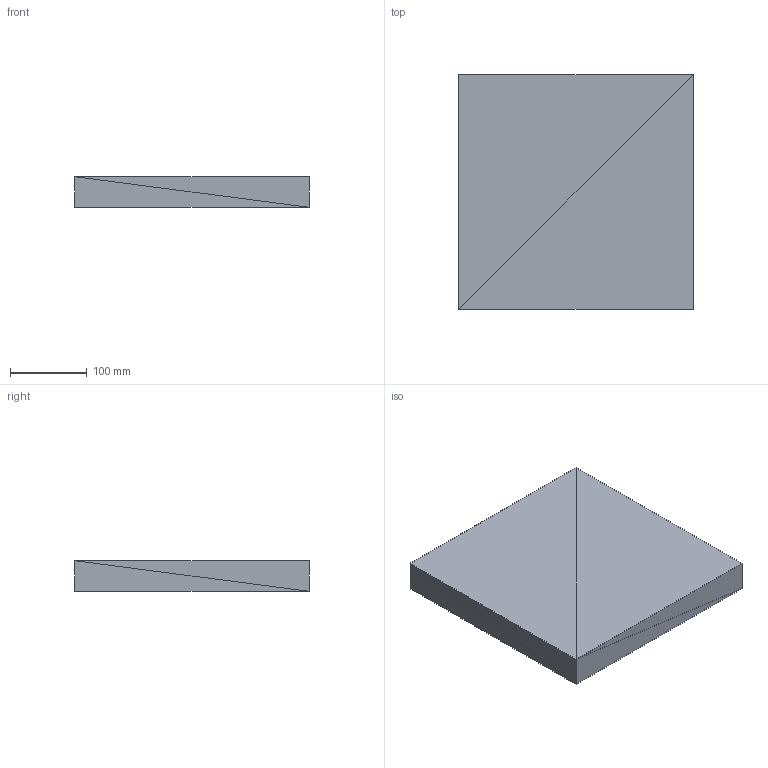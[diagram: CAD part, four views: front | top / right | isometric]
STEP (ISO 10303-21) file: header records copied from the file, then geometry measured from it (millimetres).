
FILE_DESCRIPTION(('ISINAC STEP AP214'),'2;1');
FILE_NAME('ISINAC_C.305_40mm_ADHESIVO','2026-05-03T10:49:19',('ISINAC'),('www.isinac.com'),'ISINAC BIM Generator 1.0','','');
FILE_SCHEMA(('AUTOMOTIVE_DESIGN'));
Length unit declared in the file: millimetre
Products named in the file (1): ISINAC_C.305_40mm_ADHESIVO
Bounding box: 305 x 305 x 40 mm (x, y, z)
Surface area: 234850 mm2 (no closed solid volume)
Topology: 0 solids, 12 shells, 12 faces, 36 edges, 36 vertices
Faces by surface type: plane 12
Entity records: 145 total; most frequent: CARTESIAN_POINT 48, DIRECTION 24, POLY_LOOP 12, FACE_OUTER_BOUND 12, AXIS2_PLACEMENT_3D 12, PLANE 12, FACE_SURFACE 12, CLOSED_SHELL 1
